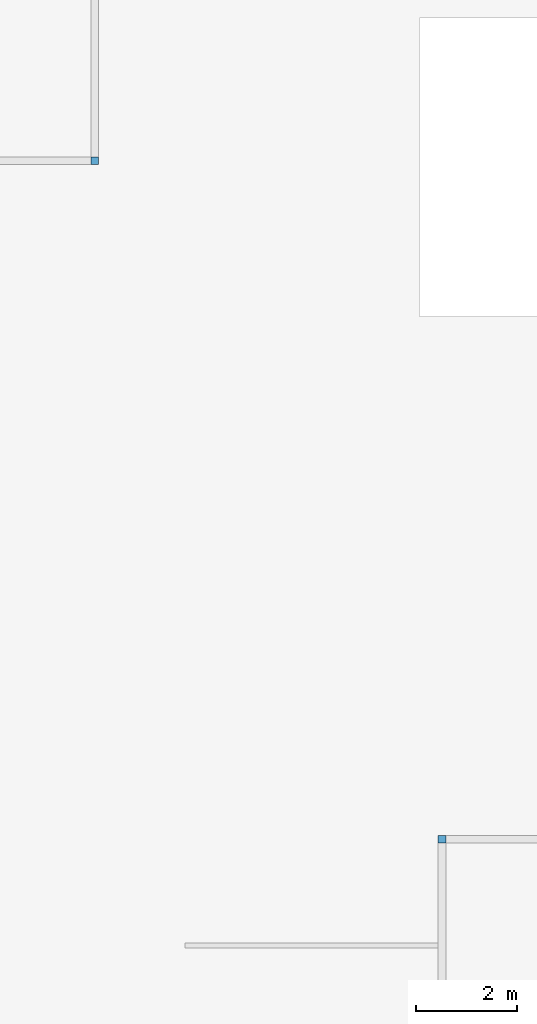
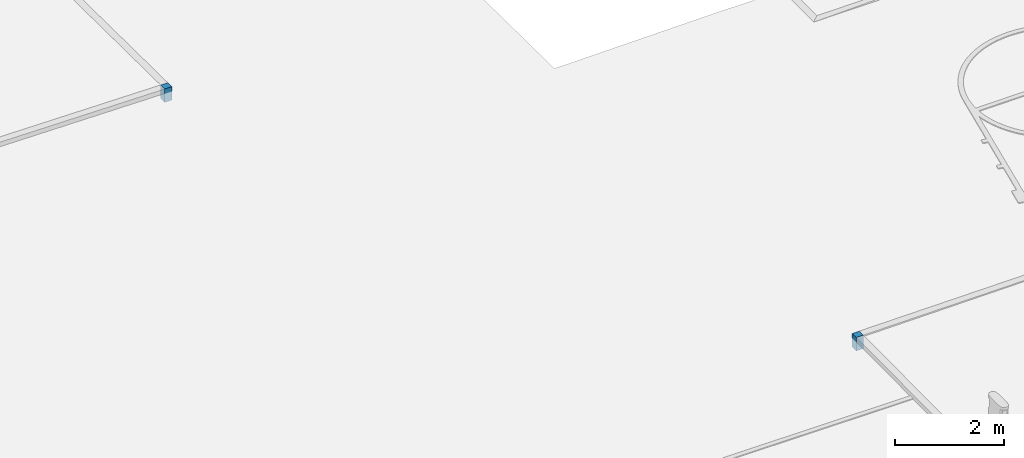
# One storey, part 13 of 77: 2 slabs, 2 elements without a shape of their own.
"""IFC2X3 building model written with IfcOpenShell, lengths in millimetres."""

from ifc_helpers import new_model, entity, si_unit, converted_unit, derived_unit, direction, frame, frame_2d, origin, place, context, subcontext, project, spatial, rectangle, extrude, element, aggregate, save


model = new_model("IFC2X3")

# Units and contexts
model_context = context("Model", 3, precision=0.01, world=origin(), true_north=direction((6.12303176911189e-17, 1.0)))
body_context = subcontext(model_context, "Body", "Model", "MODEL_VIEW")
ifc_project = project(units=[si_unit("LENGTHUNIT", "METRE", prefix="MILLI"), si_unit("AREAUNIT", "SQUARE_METRE"), si_unit("VOLUMEUNIT", "CUBIC_METRE"), converted_unit("PLANEANGLEUNIT", "DEGREE", entity("IfcRatioMeasure", 0.0174532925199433), si_unit("PLANEANGLEUNIT", "RADIAN"), dimensions=[0, 0, 0, 0, 0, 0, 0]), si_unit("MASSUNIT", "GRAM", prefix="KILO"), derived_unit("MASSDENSITYUNIT", [(si_unit("MASSUNIT", "GRAM", prefix="KILO"), 1), (si_unit("LENGTHUNIT", "METRE"), -3)]), si_unit("TIMEUNIT", "SECOND"), si_unit("FREQUENCYUNIT", "HERTZ"), si_unit("THERMODYNAMICTEMPERATUREUNIT", "DEGREE_CELSIUS"), derived_unit("THERMALTRANSMITTANCEUNIT", [(si_unit("MASSUNIT", "GRAM", prefix="KILO"), 1), (si_unit("THERMODYNAMICTEMPERATUREUNIT", "KELVIN"), -1), (si_unit("TIMEUNIT", "SECOND"), -3)]), derived_unit("VOLUMETRICFLOWRATEUNIT", [(si_unit("LENGTHUNIT", "METRE"), 3), (si_unit("TIMEUNIT", "SECOND"), -1)]), si_unit("ELECTRICCURRENTUNIT", "AMPERE"), si_unit("ELECTRICVOLTAGEUNIT", "VOLT"), si_unit("POWERUNIT", "WATT"), si_unit("FORCEUNIT", "NEWTON", prefix="KILO"), si_unit("ILLUMINANCEUNIT", "LUX"), si_unit("LUMINOUSFLUXUNIT", "LUMEN"), si_unit("LUMINOUSINTENSITYUNIT", "CANDELA"), derived_unit("USERDEFINED", [(si_unit("MASSUNIT", "GRAM", prefix="KILO"), -1), (si_unit("LENGTHUNIT", "METRE"), -2), (si_unit("TIMEUNIT", "SECOND"), 3), (si_unit("LUMINOUSFLUXUNIT", "LUMEN"), 1)]), derived_unit("LINEARVELOCITYUNIT", [(si_unit("LENGTHUNIT", "METRE"), 1), (si_unit("TIMEUNIT", "SECOND"), -1)]), si_unit("PRESSUREUNIT", "PASCAL"), derived_unit("USERDEFINED", [(si_unit("LENGTHUNIT", "METRE"), -2), (si_unit("MASSUNIT", "GRAM", prefix="KILO"), 1), (si_unit("TIMEUNIT", "SECOND"), -2)])], contexts=[model_context])

# Site, building, storey
site_placement = place(None, origin())
site = spatial("IfcSite", under=ifc_project, at=site_placement, Name="Default", CompositionType="ELEMENT")
building_placement = place(site_placement, origin())
building = spatial("IfcBuilding", under=site, at=building_placement, CompositionType="ELEMENT")
storey_placement = place(building_placement, origin())
storey = spatial("IfcBuildingStorey", under=building, at=storey_placement, Name="1. KORRUS", CompositionType="ELEMENT", Elevation=0.0)

# Slabs
slab_1_placement = place(storey_placement, frame((8824.76481329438, 35299.999434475, -480.0)))
slab_1 = element("IfcSlab", 1, at=slab_1_placement, inside=storey, Name="Floor:äärekivi", ObjectType="Floor:äärekivi", PredefinedType="NOTDEFINED")
slab_2_placement = place(slab_1_placement, origin())
slab_2 = element("IfcSlab", 2, at=slab_2_placement, Name="Floor:äärekivi", ObjectType="Floor:äärekivi", PredefinedType="NOTDEFINED", context=body_context, shape_type="SweptSolid", body=[
    extrude(rectangle(XDim=149.745329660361, YDim=150.000000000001, at=frame_2d((0.0, 2.1600499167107e-12), x_axis=(0.0, 1.0))), frame((36940.2593711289, 74.8726648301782, 380.0)), (0.0, 0.0, -1.0), 300.0),
])
aggregate(slab_1, [slab_2])

slab_3_placement = place(storey_placement, frame((52550.0, -22152.1038850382, -460.0)))
slab_3 = element("IfcSlab", 3, at=slab_3_placement, inside=storey, Name="Floor:äärekivi", ObjectType="Floor:äärekivi", PredefinedType="NOTDEFINED")
slab_4_placement = place(slab_3_placement, origin())
slab_4 = element("IfcSlab", 4, at=slab_4_placement, Name="Floor:äärekivi", ObjectType="Floor:äärekivi", PredefinedType="NOTDEFINED", context=body_context, shape_type="SweptSolid", body=[
    extrude(rectangle(XDim=149.338015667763, YDim=150.000000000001, at=frame_2d((0.0, 0.0), x_axis=(0.0, -1.0))), frame((75.0, 44129.3865541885, 540.0)), (0.0, 0.0, -1.0), 300.0),
])
aggregate(slab_3, [slab_4])

save(model, "model.ifc")
